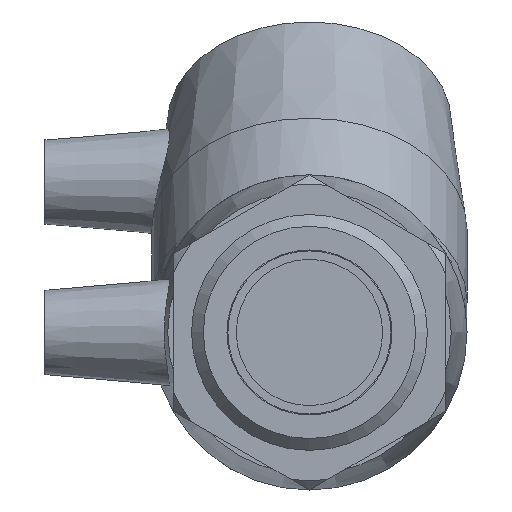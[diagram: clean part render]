
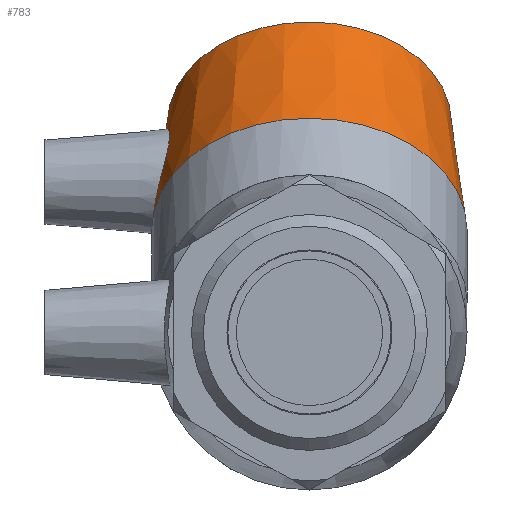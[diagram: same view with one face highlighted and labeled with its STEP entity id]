
A CAD part, left-side view. The second image highlights one B-rep face of the part: STEP entity #783.
In plain terms, the highlighted conical face has half-angle 5.921 degrees and reference radius 26.6 mm.
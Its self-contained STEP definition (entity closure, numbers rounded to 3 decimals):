
#15=B_SPLINE_CURVE_WITH_KNOTS('',3,(#1394,#1395,#1396,#1397,#1398,#1399,
#1400,#1401,#1402,#1403,#1404,#1405,#1406,#1407,#1408,#1409,#1410,#1411,
#1412,#1413,#1414,#1415,#1416,#1417,#1418,#1419,#1420,#1421,#1422,#1423,
#1424,#1425,#1426,#1427),.UNSPECIFIED.,.T.,.F.,(4,2,2,2,2,2,2,2,2,2,2,2,
2,2,2,2,4),(0.,0.344,0.687,1.034,1.38,
1.727,2.073,2.417,2.76,3.133,
3.505,3.868,4.231,4.595,4.958,
5.33,5.702),.UNSPECIFIED.);
#141=FACE_BOUND('',#285,.T.);
#142=FACE_BOUND('',#286,.T.);
#202=FACE_OUTER_BOUND('',#284,.T.);
#284=EDGE_LOOP('',(#689));
#285=EDGE_LOOP('',(#690));
#286=EDGE_LOOP('',(#691));
#347=CIRCLE('',#874,28.);
#351=CIRCLE('',#885,25.2);
#420=VERTEX_POINT('',#1389);
#421=VERTEX_POINT('',#1393);
#425=VERTEX_POINT('',#1439);
#513=EDGE_CURVE('',#420,#420,#347,.T.);
#515=EDGE_CURVE('',#421,#421,#15,.T.);
#519=EDGE_CURVE('',#425,#425,#351,.T.);
#689=ORIENTED_EDGE('',*,*,#513,.F.);
#690=ORIENTED_EDGE('',*,*,#515,.T.);
#691=ORIENTED_EDGE('',*,*,#519,.T.);
#733=CONICAL_SURFACE('',#886,26.6,5.921);
#783=ADVANCED_FACE('',(#202,#141,#142),#733,.T.);
#874=AXIS2_PLACEMENT_3D('',#1390,#1076,#1077);
#885=AXIS2_PLACEMENT_3D('',#1440,#1098,#1099);
#886=AXIS2_PLACEMENT_3D('',#1441,#1100,#1101);
#1076=DIRECTION('center_axis',(-0.707,0.,
-0.707));
#1077=DIRECTION('ref_axis',(-0.707,0.,0.707));
#1098=DIRECTION('center_axis',(-0.707,0.,
-0.707));
#1099=DIRECTION('ref_axis',(-0.707,0.,0.707));
#1100=DIRECTION('center_axis',(-0.707,0.,
-0.707));
#1101=DIRECTION('ref_axis',(0.,1.,0.));
#1389=CARTESIAN_POINT('',(18.262,28.,18.262));
#1390=CARTESIAN_POINT('Origin',(18.262,0.,
18.262));
#1393=CARTESIAN_POINT('',(33.686,25.,20.371));
#1394=CARTESIAN_POINT('Ctrl Pts',(33.686,25.,20.371));
#1395=CARTESIAN_POINT('Ctrl Pts',(34.462,24.89,21.206));
#1396=CARTESIAN_POINT('Ctrl Pts',(35.125,24.862,22.253));
#1397=CARTESIAN_POINT('Ctrl Pts',(35.975,24.966,24.525));
#1398=CARTESIAN_POINT('Ctrl Pts',(36.163,25.093,25.748));
#1399=CARTESIAN_POINT('Ctrl Pts',(36.102,25.355,28.033));
#1400=CARTESIAN_POINT('Ctrl Pts',(35.846,25.507,29.252));
#1401=CARTESIAN_POINT('Ctrl Pts',(34.876,25.726,31.499));
#1402=CARTESIAN_POINT('Ctrl Pts',(34.161,25.788,32.527));
#1403=CARTESIAN_POINT('Ctrl Pts',(32.527,25.788,34.161));
#1404=CARTESIAN_POINT('Ctrl Pts',(31.499,25.726,34.876));
#1405=CARTESIAN_POINT('Ctrl Pts',(29.252,25.507,35.846));
#1406=CARTESIAN_POINT('Ctrl Pts',(28.033,25.355,36.102));
#1407=CARTESIAN_POINT('Ctrl Pts',(25.748,25.093,36.163));
#1408=CARTESIAN_POINT('Ctrl Pts',(24.525,24.966,35.975));
#1409=CARTESIAN_POINT('Ctrl Pts',(22.253,24.862,35.125));
#1410=CARTESIAN_POINT('Ctrl Pts',(21.206,24.89,34.462));
#1411=CARTESIAN_POINT('Ctrl Pts',(19.466,25.12,32.845));
#1412=CARTESIAN_POINT('Ctrl Pts',(18.7,25.35,31.771));
#1413=CARTESIAN_POINT('Ctrl Pts',(17.69,25.936,29.419));
#1414=CARTESIAN_POINT('Ctrl Pts',(17.446,26.284,28.14));
#1415=CARTESIAN_POINT('Ctrl Pts',(17.445,26.888,25.764));
#1416=CARTESIAN_POINT('Ctrl Pts',(17.678,27.185,24.504));
#1417=CARTESIAN_POINT('Ctrl Pts',(18.643,27.599,22.166));
#1418=CARTESIAN_POINT('Ctrl Pts',(19.376,27.711,21.088));
#1419=CARTESIAN_POINT('Ctrl Pts',(21.088,27.711,19.376));
#1420=CARTESIAN_POINT('Ctrl Pts',(22.166,27.599,18.643));
#1421=CARTESIAN_POINT('Ctrl Pts',(24.504,27.185,17.678));
#1422=CARTESIAN_POINT('Ctrl Pts',(25.764,26.888,17.445));
#1423=CARTESIAN_POINT('Ctrl Pts',(28.14,26.284,17.446));
#1424=CARTESIAN_POINT('Ctrl Pts',(29.419,25.936,17.69));
#1425=CARTESIAN_POINT('Ctrl Pts',(31.771,25.35,18.7));
#1426=CARTESIAN_POINT('Ctrl Pts',(32.845,25.12,19.466));
#1427=CARTESIAN_POINT('Ctrl Pts',(33.686,25.,20.371));
#1439=CARTESIAN_POINT('',(37.354,25.2,37.354));
#1440=CARTESIAN_POINT('Origin',(37.354,0.,37.354));
#1441=CARTESIAN_POINT('Origin',(27.808,0.,
27.808));
